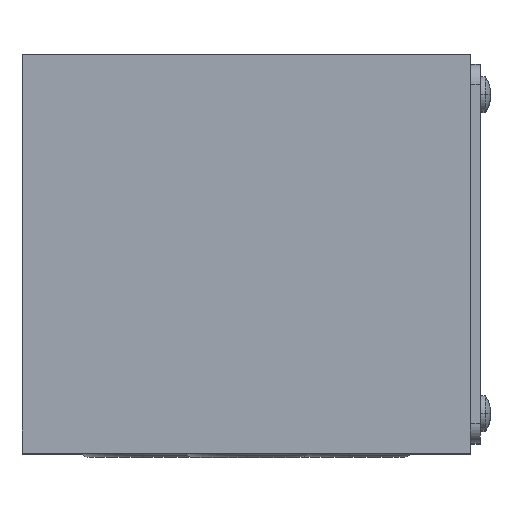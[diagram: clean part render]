
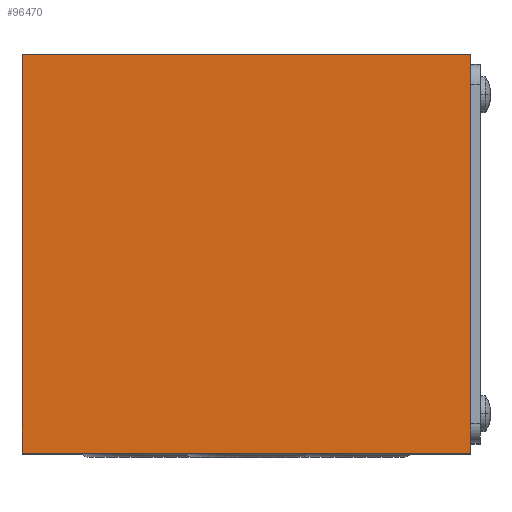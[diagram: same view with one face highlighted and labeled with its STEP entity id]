
A CAD part, top view. The second image highlights one B-rep face of the part: STEP entity #96470.
In plain terms, the highlighted planar face has unit normal (0, 0, 1) as drawn and (0, 0, -1) by its records, which use the part's own axes.
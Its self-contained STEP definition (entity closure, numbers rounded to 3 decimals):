
#4581 = VECTOR ( 'NONE', #79377, 1000. ) ;
#4674 = VECTOR ( 'NONE', #26892, 1000. ) ;
#8047 = EDGE_CURVE ( 'NONE', #22684, #8582, #51230, .T. ) ;
#8582 = VERTEX_POINT ( 'NONE', #91648 ) ;
#9068 = ORIENTED_EDGE ( 'NONE', *, *, #8047, .F. ) ;
#15521 = VERTEX_POINT ( 'NONE', #28584 ) ;
#17030 = CARTESIAN_POINT ( 'NONE',  ( -22.5, 20., -32. ) ) ;
#17533 = CARTESIAN_POINT ( 'NONE',  ( 22.5, 20., -32. ) ) ;
#20121 = CARTESIAN_POINT ( 'NONE',  ( -22.5, -20., -32. ) ) ;
#22684 = VERTEX_POINT ( 'NONE', #17030 ) ;
#26829 = EDGE_CURVE ( 'NONE', #8582, #34722, #35116, .T. ) ;
#26892 = DIRECTION ( 'NONE',  ( 1., 0., 0. ) ) ;
#28584 = CARTESIAN_POINT ( 'NONE',  ( 22.5, 20., -32. ) ) ;
#34722 = VERTEX_POINT ( 'NONE', #108658 ) ;
#35116 = LINE ( 'NONE', #86212, #4674 ) ;
#37493 = DIRECTION ( 'NONE',  ( 0., 0., 1. ) ) ;
#38541 = EDGE_CURVE ( 'NONE', #15521, #22684, #92105, .T. ) ;
#41261 = FACE_OUTER_BOUND ( 'NONE', #78122, .T. ) ;
#42303 = AXIS2_PLACEMENT_3D ( 'NONE', #20121, #37493, #96834 ) ;
#51230 = LINE ( 'NONE', #63978, #105593 ) ;
#51288 = DIRECTION ( 'NONE',  ( 0., 1., 0. ) ) ;
#52735 = CARTESIAN_POINT ( 'NONE',  ( -22.5, 20., -32. ) ) ;
#55120 = ORIENTED_EDGE ( 'NONE', *, *, #38541, .F. ) ;
#59254 = ORIENTED_EDGE ( 'NONE', *, *, #84351, .F. ) ;
#63978 = CARTESIAN_POINT ( 'NONE',  ( -22.5, 20., -32. ) ) ;
#67176 = LINE ( 'NONE', #17533, #87071 ) ;
#68833 = ORIENTED_EDGE ( 'NONE', *, *, #26829, .F. ) ;
#72489 = DIRECTION ( 'NONE',  ( 0., -1., 0. ) ) ;
#78122 = EDGE_LOOP ( 'NONE', ( #9068, #55120, #59254, #68833 ) ) ;
#79377 = DIRECTION ( 'NONE',  ( -1., 0., 0. ) ) ;
#79772 = PLANE ( 'NONE',  #42303 ) ;
#84351 = EDGE_CURVE ( 'NONE', #34722, #15521, #67176, .T. ) ;
#86212 = CARTESIAN_POINT ( 'NONE',  ( -22.5, -20., -32. ) ) ;
#87071 = VECTOR ( 'NONE', #51288, 1000. ) ;
#91648 = CARTESIAN_POINT ( 'NONE',  ( -22.5, -20., -32. ) ) ;
#92105 = LINE ( 'NONE', #52735, #4581 ) ;
#96470 = ADVANCED_FACE ( 'NONE', ( #41261 ), #79772, .F. ) ;
#96834 = DIRECTION ( 'NONE',  ( 1., 0., 0. ) ) ;
#105593 = VECTOR ( 'NONE', #72489, 1000. ) ;
#108658 = CARTESIAN_POINT ( 'NONE',  ( 22.5, -20., -32. ) ) ;
